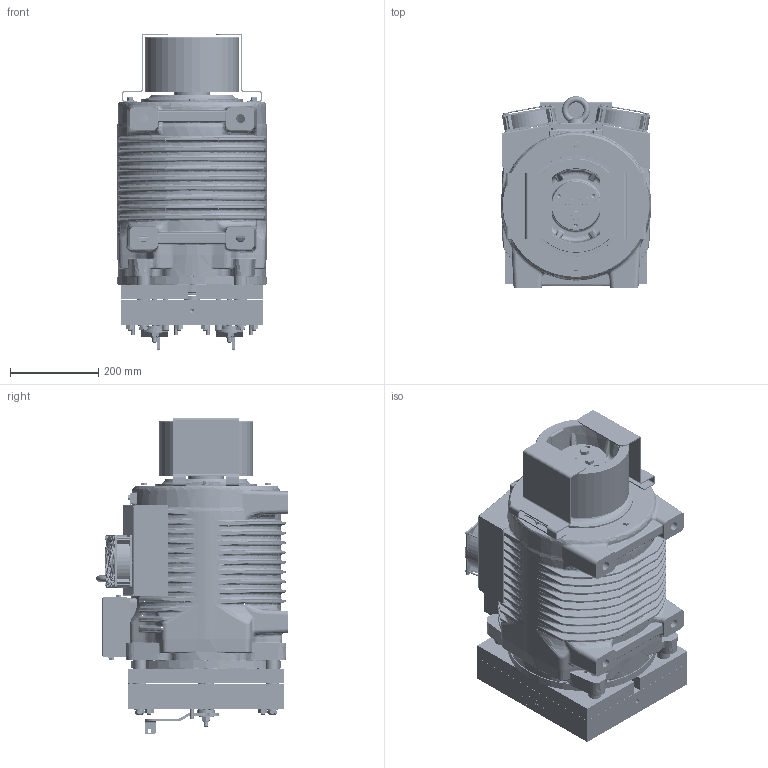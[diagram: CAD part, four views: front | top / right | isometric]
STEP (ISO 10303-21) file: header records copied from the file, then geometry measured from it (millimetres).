
FILE_DESCRIPTION((''),'2;1');
FILE_NAME('00363588_ASM','2020-06-08T',('furlanis'),('Sicor spa'),'CREO PARAMETRIC BY PTC INC, 2017170','CREO PARAMETRIC BY PTC INC, 2017170','');
FILE_SCHEMA(('CONFIG_CONTROL_DESIGN'));
Products named in the file (18): SG48; _210_125; _210; 00073486; TEM12X45_VIT0222; 00255325; M4_FTT_C; 00257514_ASM; 00002908; 00002901; 00002909_ASM; 00002902; 00042420_M4X50; TEM6X12_VIR0184; 00000263; 00257517_ASM; RTW800_MIT_HL; 00363588_ASM
Assembly tree (37 placements, depth 4):
  00363588_ASM
    SG48
    _210_125
    _210  x2
    00073486
    TEM12X45_VIT0222  x3
    00257517_ASM
      00257514_ASM
        00255325
        M4_FTT_C  x8
      00002909_ASM  x2
        00002908
        00002901
      00002902  x2
      00042420_M4X50  x8
      TEM6X12_VIR0184  x2
      00000263
    RTW800_MIT_HL
Bounding box: 340.21 x 433.5 x 717.34 mm (x, y, z)
Volume: 14967149.3 mm3; surface area: 3201273.5 mm2
Topology: 35 solids, 289 shells, 8693 faces, 25328 edges, 16858 vertices
Faces by surface type: plane 4487, cylinder 1838, bspline 992, cone 701, torus 615, sphere 48, revolution 12
Entity records: 356654 total; most frequent: CARTESIAN_POINT 155493, ORIENTED_EDGE 42314, DIRECTION 37417, EDGE_CURVE 23631, VERTEX_POINT 15865, VECTOR 13771, LINE 13771, AXIS2_PLACEMENT_3D 11817
